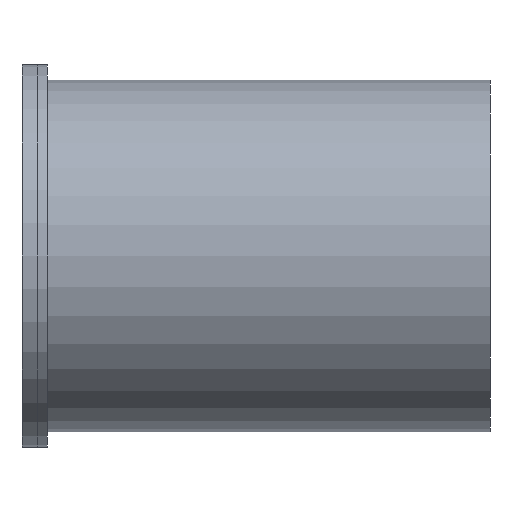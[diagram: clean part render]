
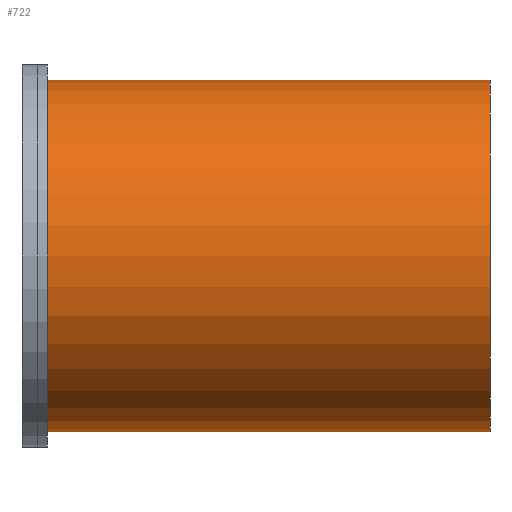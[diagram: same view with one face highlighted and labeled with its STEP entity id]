
A CAD part, left-side view. The second image highlights one B-rep face of the part: STEP entity #722.
In plain terms, the highlighted cylindrical face has radius 17.4 mm (diameter 34.8 mm), a partial arc.
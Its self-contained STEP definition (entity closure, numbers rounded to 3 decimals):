
#269=DIRECTION('',(0.,1.,0.));
#270=VECTOR('',#269,43.8);
#271=CARTESIAN_POINT('',(0.,0.,-17.4));
#272=LINE('',#271,#270);
#284=DIRECTION('',(0.,1.,0.));
#285=VECTOR('',#284,43.8);
#286=CARTESIAN_POINT('',(0.,0.,17.4));
#287=LINE('',#286,#285);
#291=CARTESIAN_POINT('',(0.,0.,0.));
#292=DIRECTION('',(0.,1.,0.));
#293=DIRECTION('',(0.,0.,-1.));
#294=AXIS2_PLACEMENT_3D('',#291,#292,#293);
#307=CARTESIAN_POINT('',(0.,43.8,0.));
#308=DIRECTION('',(0.,1.,0.));
#309=DIRECTION('',(0.,0.,-1.));
#310=AXIS2_PLACEMENT_3D('',#307,#308,#309);
#601=CARTESIAN_POINT('',(0.,0.,-17.4));
#602=CARTESIAN_POINT('',(0.,43.8,-17.4));
#603=VERTEX_POINT('',#601);
#604=VERTEX_POINT('',#602);
#609=CARTESIAN_POINT('',(0.,0.,17.4));
#610=CARTESIAN_POINT('',(0.,43.8,17.4));
#611=VERTEX_POINT('',#609);
#612=VERTEX_POINT('',#610);
#710=CARTESIAN_POINT('',(0.,0.,0.));
#711=DIRECTION('',(0.,1.,0.));
#712=DIRECTION('',(0.,0.,-1.));
#713=AXIS2_PLACEMENT_3D('',#710,#711,#712);
#714=CYLINDRICAL_SURFACE('',#713,17.4);
#715=ORIENTED_EDGE('',*,*,#700,.T.);
#717=ORIENTED_EDGE('',*,*,#716,.T.);
#718=ORIENTED_EDGE('',*,*,#703,.F.);
#719=ORIENTED_EDGE('',*,*,#672,.F.);
#720=EDGE_LOOP('',(#715,#717,#718,#719));
#721=FACE_OUTER_BOUND('',#720,.F.);
#295=CIRCLE('',#294,17.4);
#311=CIRCLE('',#310,17.4);
#672=EDGE_CURVE('',#603,#611,#295,.T.);
#700=EDGE_CURVE('',#603,#604,#272,.T.);
#703=EDGE_CURVE('',#611,#612,#287,.T.);
#716=EDGE_CURVE('',#604,#612,#311,.T.);
#722=ADVANCED_FACE('',(#721),#714,.T.);
